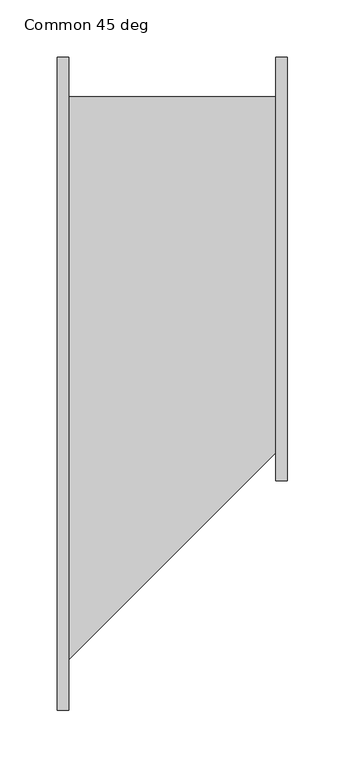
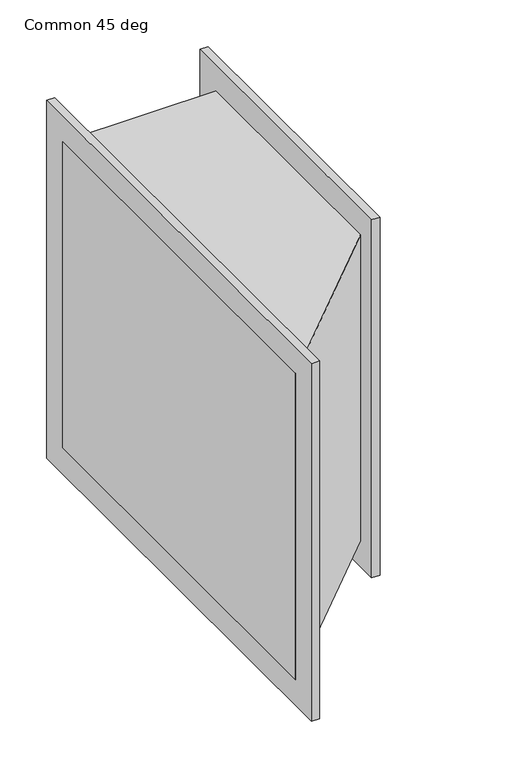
"""IFC4 building model written with IfcOpenShell, lengths in millimetres: duct fitting geometry, 041_角型置換 - フランジ - 角度 : Common 45 deg."""

from ifc_helpers import new_model, si_unit, frame, origin, place, context, project, spatial, polyline, outline, extrude, source, transform, mapped, element, save


def common_45_deg_2e478033(model_context):
    return source(origin(), model_context, "Body", "SweptSolid", [
        extrude(outline(polyline([(0.0, -250.0), (0.0, 250.0), (200.0, 250.0), (200.0, -50.0), (0.0, -250.0)])), frame((0.0, 0.0, -200.0), z_axis=(0.0, 0.0, 1.0), x_axis=(1.0, 0.0, 0.0)), (0.0, 0.0, 1.0), 400.0),
        extrude(outline(polyline([(200.0, 284.0), (200.0, -84.0), (190.0, -84.0), (190.0, 284.0), (200.0, 284.0)])), frame((0.0, 0.0, -234.0), z_axis=(0.0, 0.0, 1.0), x_axis=(1.0, 0.0, 0.0)), (0.0, 0.0, 1.0), 468.0),
        extrude(outline(polyline([(10.0, 284.0), (10.0, -284.0), (0.0, -284.0), (0.0, 284.0), (10.0, 284.0)])), frame((0.0, 0.0, -234.0), z_axis=(0.0, 0.0, 1.0), x_axis=(1.0, 0.0, 0.0)), (0.0, 0.0, 1.0), 468.0),
    ])


if __name__ == "__main__":
    model = new_model("IFC4")
    model_context = context("Model", 3, world=origin())
    ifc_project = project(units=[si_unit("LENGTHUNIT", "METRE", prefix="MILLI")], contexts=[model_context])
    site = spatial("IfcSite", under=ifc_project)
    building = spatial("IfcBuilding", under=site)
    placement = place(None, origin())
    common_45_deg_shape = common_45_deg_2e478033(model_context)
    element("IfcDuctFitting", 1, ObjectType="041_角型置換 - フランジ - 角度 : Common 45 deg", at=placement, inside=building, context=model_context, shape_type="MappedRepresentation", body=[
        mapped(common_45_deg_shape, transform((0.0, 0.0, 0.0), x_axis=(1.0, 0.0, 0.0), y_axis=(0.0, 1.0, 0.0), z_axis=(0.0, 0.0, 1.0))),
    ])
    save(model, "model.ifc")
